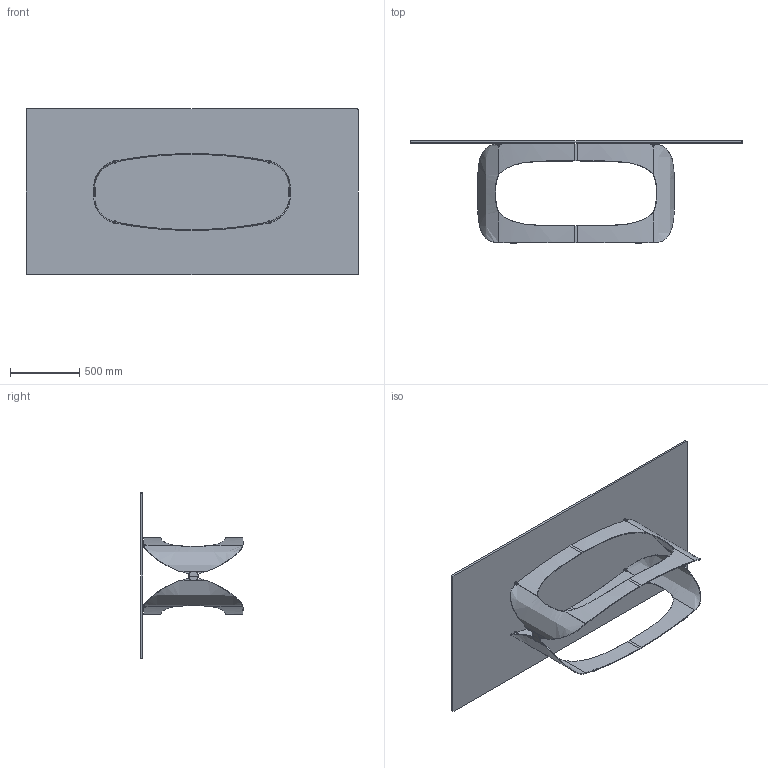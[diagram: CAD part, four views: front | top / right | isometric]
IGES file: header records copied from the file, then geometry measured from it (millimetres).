
Start section: SolidWorks IGES file using analytic representation for surfaces
Global section: file name: Y:\eforma\TECNICO\SOLIDWORKS\E-FORMA\1-TAVOLI\POLIFEMO\02 parts\PO23G.IGS; native system: SolidWorks 2022; preprocessor: SolidWorks 2022; author: eforma.tech; date: 240806.160701; units: millimetre
Bounding box: 2400 x 739.97 x 1200 mm (x, y, z)
Volume: 50418548.6 mm3; surface area: 8394591.4 mm2
Topology: 24 solids, 24 shells, 476 faces, 1180 edges, 758 vertices
Faces by surface type: revolution 241, plane 155, bspline 80
